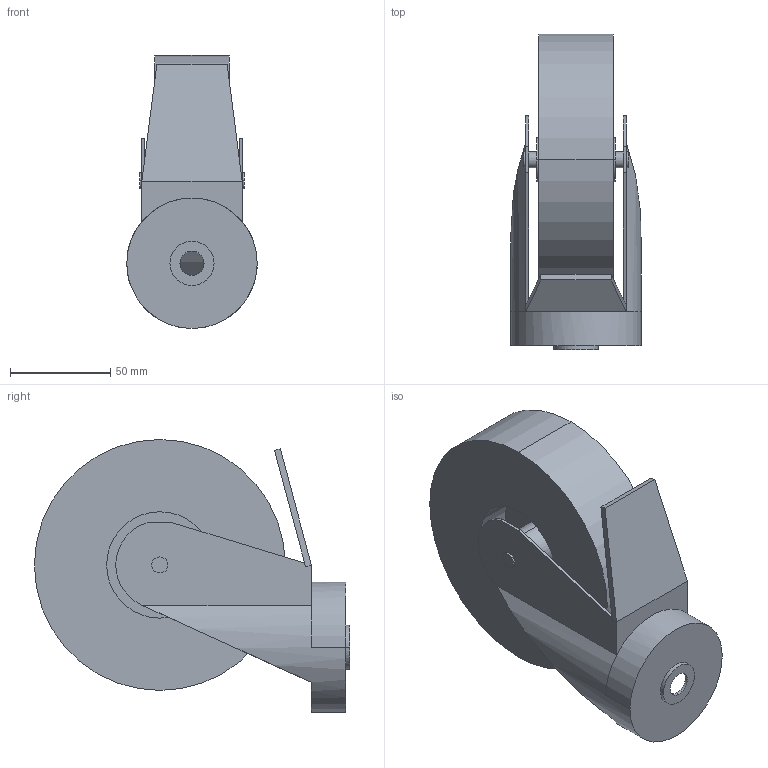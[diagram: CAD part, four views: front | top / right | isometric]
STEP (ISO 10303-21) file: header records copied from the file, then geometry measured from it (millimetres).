
FILE_DESCRIPTION((''),'2;1');
FILE_NAME('RUP125S_ASM','2002-12-27T',('Lipro doo'),('Lipro d.o.o.'),'PRO/ENGINEER BY PARAMETRIC TECHNOLOGY CORPORATION, 2001150','PRO/ENGINEER BY PARAMETRIC TECHNOLOGY CORPORATION, 2001150','');
FILE_SCHEMA(('CONFIG_CONTROL_DESIGN'));
Length unit declared in the file: millimetre
Products named in the file (3): RUP125_3; RUP125_1; RUP125S_ASM
Assembly tree (2 placements, depth 2):
  RUP125S_ASM
    RUP125_3
    RUP125_1
Bounding box: 65 x 157 x 136 mm (x, y, z)
Volume: 425959 mm3; surface area: 87460.6 mm2
Topology: 2 solids, 2 shells, 63 faces, 148 edges, 97 vertices
Faces by surface type: plane 33, cylinder 30
Entity records: 1950 total; most frequent: CARTESIAN_POINT 345, DIRECTION 341, ORIENTED_EDGE 296, EDGE_CURVE 148, AXIS2_PLACEMENT_3D 131, VERTEX_POINT 97, VECTOR 79, LINE 79
